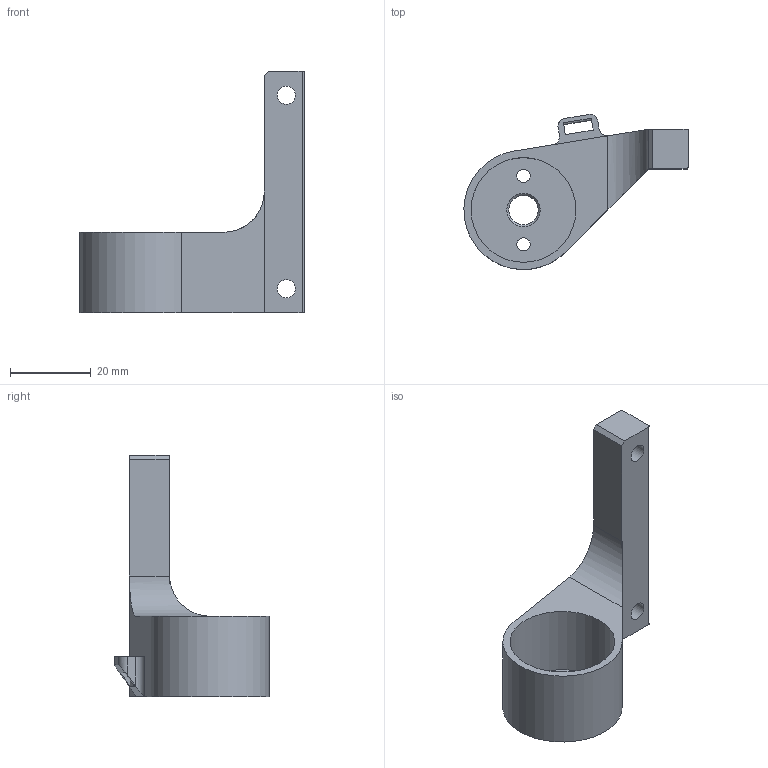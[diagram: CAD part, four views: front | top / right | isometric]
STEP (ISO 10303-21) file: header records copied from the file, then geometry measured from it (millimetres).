
FILE_DESCRIPTION(/* description */ ('Alibre Inc.'),/* implementation_level */ '2;1');
FILE_NAME(/* name */ 'export-2E0CACB6-D1EA-48BE-94F9-494BB45317DD',/* time_stamp */ '2026-01-19T12:33:28+00:00',/* author */ (''),/* organization */ (''),/* preprocessor_version */ 'ST-DEVELOPER v17',/* originating_system */ 'Alibre',/* authorisation */ '');
FILE_SCHEMA (('CONFIG_CONTROL_DESIGN'));
Length unit declared in the file: millimetre
Bounding box: 55.62 x 38.47 x 60 mm (x, y, z)
Volume: 17128.1 mm3; surface area: 8619.8 mm2
Topology: 1 solids, 1 shells, 38 faces, 101 edges, 66 vertices
Faces by surface type: plane 21, cylinder 14, cone 3
Full cylindrical faces by diameter (mm): 3.3 x2, 4.5 x2, 7.3 x1, 26 x1
Entity records: 1192 total; most frequent: CARTESIAN_POINT 188, ORIENTED_EDGE 178, DIRECTION 173, EDGE_CURVE 89, AXIS2_PLACEMENT_3D 69, VERTEX_POINT 63, EDGE_LOOP 60, FACE_BOUND 60
